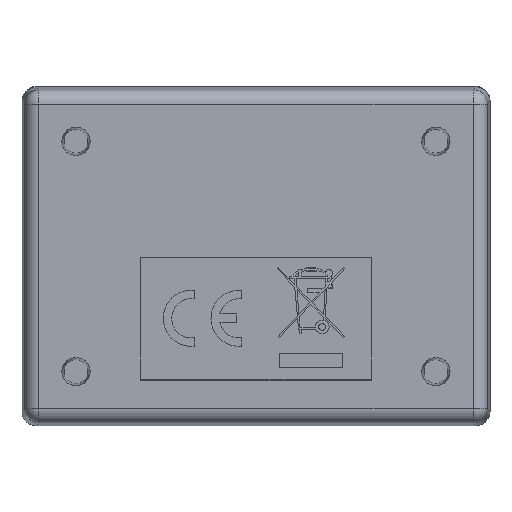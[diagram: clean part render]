
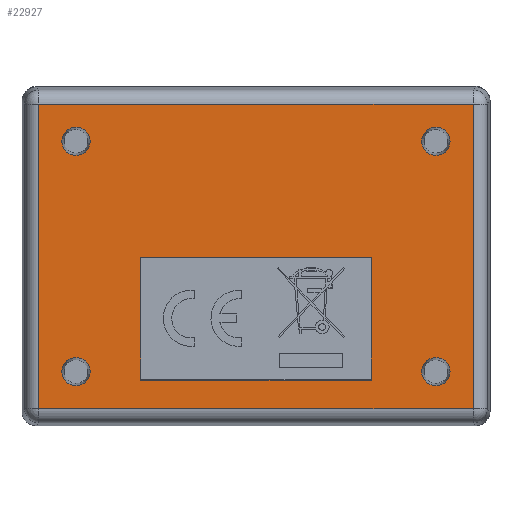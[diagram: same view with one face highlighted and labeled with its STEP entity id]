
A CAD part, front view. The second image highlights one B-rep face of the part: STEP entity #22927.
In plain terms, the highlighted planar face has unit normal (0, -1, 0) as drawn and (0, 0, -1) by its records, which use the part's own axes.
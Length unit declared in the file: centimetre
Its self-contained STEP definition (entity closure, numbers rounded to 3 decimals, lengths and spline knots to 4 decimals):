
#9955=VECTOR('',#30783,1.);
#9958=VECTOR('',#30787,1.);
#9961=VECTOR('',#30791,1.);
#9964=VECTOR('',#30795,1.);
#10125=VECTOR('',#31028,1.);
#10126=VECTOR('',#31029,1.);
#10127=VECTOR('',#31030,1.);
#10128=VECTOR('',#31031,1.);
#11662=LINE('',#25755,#9955);
#11665=LINE('',#25761,#9958);
#11668=LINE('',#25767,#9961);
#11671=LINE('',#25772,#9964);
#11832=LINE('',#26847,#10125);
#11833=LINE('',#26850,#10126);
#11834=LINE('',#26852,#10127);
#11835=LINE('',#26854,#10128);
#13107=PLANE('',#23693);
#13879=VERTEX_POINT('',#25754);
#13880=VERTEX_POINT('',#25756);
#13882=VERTEX_POINT('',#25762);
#13884=VERTEX_POINT('',#25768);
#14005=VERTEX_POINT('',#26840);
#14006=VERTEX_POINT('',#26842);
#14007=VERTEX_POINT('',#26844);
#14008=VERTEX_POINT('',#26846);
#14009=VERTEX_POINT('',#26848);
#14010=VERTEX_POINT('',#26849);
#14011=VERTEX_POINT('',#26851);
#14012=VERTEX_POINT('',#26853);
#14872=CIRCLE('',#23694,0.1249);
#14873=CIRCLE('',#23695,0.1249);
#14874=CIRCLE('',#23696,0.1249);
#14875=CIRCLE('',#23697,0.1249);
#15503=EDGE_CURVE('',#13880,#13879,#11662,.F.);
#15506=EDGE_CURVE('',#13882,#13880,#11665,.F.);
#15509=EDGE_CURVE('',#13884,#13882,#11668,.F.);
#15512=EDGE_CURVE('',#13879,#13884,#11671,.F.);
#15693=EDGE_CURVE('',#14005,#14005,#14872,.F.);
#15694=EDGE_CURVE('',#14006,#14006,#14873,.F.);
#15695=EDGE_CURVE('',#14007,#14007,#14874,.F.);
#15696=EDGE_CURVE('',#14008,#14008,#14875,.F.);
#15697=EDGE_CURVE('',#14009,#14010,#11832,.T.);
#15698=EDGE_CURVE('',#14011,#14009,#11833,.T.);
#15699=EDGE_CURVE('',#14012,#14011,#11834,.T.);
#15700=EDGE_CURVE('',#14010,#14012,#11835,.T.);
#18412=ORIENTED_EDGE('',*,*,#15693,.T.);
#18413=ORIENTED_EDGE('',*,*,#15694,.T.);
#18414=ORIENTED_EDGE('',*,*,#15695,.T.);
#18415=ORIENTED_EDGE('',*,*,#15696,.T.);
#18416=ORIENTED_EDGE('',*,*,#15697,.F.);
#18417=ORIENTED_EDGE('',*,*,#15698,.F.);
#18418=ORIENTED_EDGE('',*,*,#15699,.F.);
#18419=ORIENTED_EDGE('',*,*,#15700,.F.);
#18420=ORIENTED_EDGE('',*,*,#15503,.T.);
#18421=ORIENTED_EDGE('',*,*,#15512,.T.);
#18422=ORIENTED_EDGE('',*,*,#15509,.T.);
#18423=ORIENTED_EDGE('',*,*,#15506,.T.);
#21260=EDGE_LOOP('',(#18412));
#21261=EDGE_LOOP('',(#18413));
#21262=EDGE_LOOP('',(#18414));
#21263=EDGE_LOOP('',(#18415));
#21264=EDGE_LOOP('',(#18416,#18417,#18418,#18419));
#21265=EDGE_LOOP('',(#18420,#18421,#18422,#18423));
#22107=FACE_BOUND('',#21260,.T.);
#22108=FACE_BOUND('',#21261,.T.);
#22109=FACE_BOUND('',#21262,.T.);
#22110=FACE_BOUND('',#21263,.T.);
#22111=FACE_BOUND('',#21264,.T.);
#22112=FACE_BOUND('',#21265,.T.);
#22927=ADVANCED_FACE('',(#22107,#22108,#22109,#22110,#22111,#22112),#13107,
 .F.);
#23693=AXIS2_PLACEMENT_3D('',#26838,#31019,$);
#23694=AXIS2_PLACEMENT_3D('',#26839,#31020,#31021);
#23695=AXIS2_PLACEMENT_3D('',#26841,#31022,#31023);
#23696=AXIS2_PLACEMENT_3D('',#26843,#31024,#31025);
#23697=AXIS2_PLACEMENT_3D('',#26845,#31026,#31027);
#25754=CARTESIAN_POINT('',(1.091,-1.0176,-0.0032));
#25755=CARTESIAN_POINT('',(0.1374,-1.0176,-0.0032));
#25756=CARTESIAN_POINT('',(0.0083,-1.0176,-0.0032));
#25761=CARTESIAN_POINT('',(0.0083,0.,-0.0032));
#25762=CARTESIAN_POINT('',(0.0083,1.0176,-0.0032));
#25767=CARTESIAN_POINT('',(0.1374,1.0176,-0.0032));
#25768=CARTESIAN_POINT('',(1.091,1.0176,-0.0032));
#25772=CARTESIAN_POINT('',(1.091,0.,-0.0032));
#26838=CARTESIAN_POINT('',(0.,0.,-0.0032));
#26839=CARTESIAN_POINT('',(1.016,1.5875,-0.0032));
#26840=CARTESIAN_POINT('',(1.1409,1.5875,-0.0032));
#26841=CARTESIAN_POINT('',(1.016,-1.5875,-0.0032));
#26842=CARTESIAN_POINT('',(1.1409,-1.5875,-0.0032));
#26843=CARTESIAN_POINT('',(-1.016,-1.5875,-0.0032));
#26844=CARTESIAN_POINT('',(-0.8911,-1.5875,-0.0032));
#26845=CARTESIAN_POINT('',(-1.016,1.5875,-0.0032));
#26846=CARTESIAN_POINT('',(-0.8911,1.5875,-0.0032));
#26847=CARTESIAN_POINT('',(0.,1.9149,-0.0032));
#26848=CARTESIAN_POINT('',(1.3434,1.9149,-0.0032));
#26849=CARTESIAN_POINT('',(-1.3434,1.9149,-0.0032));
#26850=CARTESIAN_POINT('',(1.3434,0.,-0.0032));
#26851=CARTESIAN_POINT('',(1.3434,-1.9149,-0.0032));
#26852=CARTESIAN_POINT('',(0.,-1.9149,-0.0032));
#26853=CARTESIAN_POINT('',(-1.3434,-1.9149,-0.0032));
#26854=CARTESIAN_POINT('',(-1.3434,0.,-0.0032));
#30783=DIRECTION('',(-1.,0.,0.));
#30787=DIRECTION('',(0.,1.,0.));
#30791=DIRECTION('',(1.,0.,0.));
#30795=DIRECTION('',(0.,-1.,0.));
#31019=DIRECTION('',(0.,0.,1.));
#31020=DIRECTION('',(0.,0.,-1.));
#31021=DIRECTION('',(-0.125,0.,0.));
#31022=DIRECTION('',(0.,0.,-1.));
#31023=DIRECTION('',(-0.125,0.,0.));
#31024=DIRECTION('',(0.,0.,-1.));
#31025=DIRECTION('',(-0.125,0.,0.));
#31026=DIRECTION('',(0.,0.,-1.));
#31027=DIRECTION('',(-0.125,0.,0.));
#31028=DIRECTION('',(-1.,0.,0.));
#31029=DIRECTION('',(0.,1.,0.));
#31030=DIRECTION('',(1.,0.,0.));
#31031=DIRECTION('',(0.,-1.,0.));
